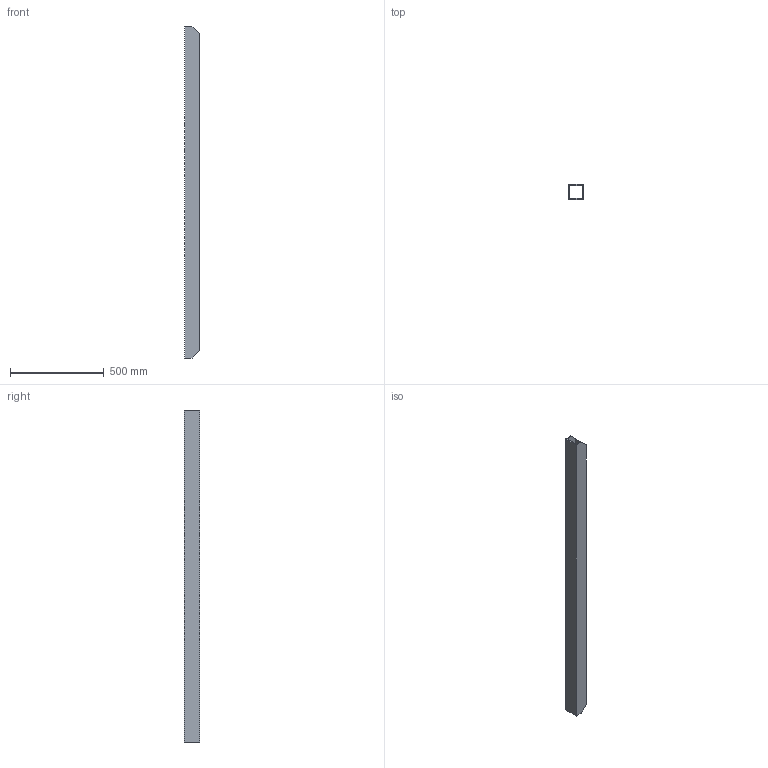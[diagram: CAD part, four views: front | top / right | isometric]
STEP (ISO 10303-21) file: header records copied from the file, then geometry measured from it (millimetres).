
FILE_DESCRIPTION(('Open CASCADE Model'),'2;1');
FILE_NAME('Open CASCADE Shape Model','2026-10-15T15:10:06',('Author'),( 'Open CASCADE'),'Open CASCADE STEP processor 8.0','Open CASCADE 8.0' ,'Unknown');
FILE_SCHEMA(('AUTOMOTIVE_DESIGN { 1 0 10303 214 1 1 1 1 }'));
Length unit declared in the file: millimetre
Products named in the file (1): HR_2p3124_3_FINAL_P05 179
Bounding box: 75 x 80 x 1767 mm (x, y, z)
Volume: 2523587.5 mm3; surface area: 1012885.6 mm2
Topology: 1 solids, 1 shells, 12 faces, 36 edges, 24 vertices
Faces by surface type: plane 12
Entity records: 850 total; most frequent: CARTESIAN_POINT 177, DIRECTION 102, LINE 76, VECTOR 76, ORIENTED_EDGE 72, PCURVE 72, DEFINITIONAL_REPRESENTATION 72, EDGE_CURVE 36
